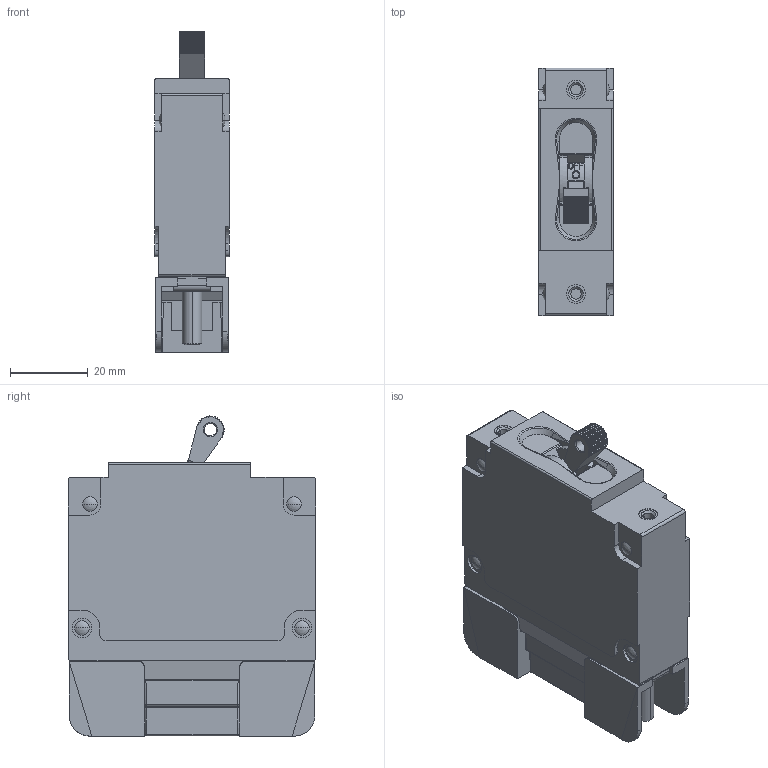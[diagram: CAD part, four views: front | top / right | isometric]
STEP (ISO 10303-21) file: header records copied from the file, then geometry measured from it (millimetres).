
FILE_DESCRIPTION((''),'2;1');
FILE_NAME('CS1','2016-03-14T',('patrickmoody'),(''),'CREO PARAMETRIC BY PTC INC, 2015480','CREO PARAMETRIC BY PTC INC, 2015480','');
FILE_SCHEMA(('AUTOMOTIVE_DESIGN { 1 0 10303 214 1 1 1 1 }'));
Length unit declared in the file: inch
Products named in the file (1): CS1
Bounding box: 19.05 x 63.5 x 82.12 mm (x, y, z)
Volume: 67887.2 mm3; surface area: 20650.4 mm2
Topology: 1 solids, 2 shells, 872 faces, 2462 edges, 1608 vertices
Faces by surface type: plane 572, cylinder 224, bspline 30, sphere 24, cone 18, torus 4
Entity records: 38067 total; most frequent: CARTESIAN_POINT 8127, ORIENTED_EDGE 4884, DIRECTION 4232, EDGE_CURVE 2442, VECTOR 1672, LINE 1672, VERTEX_POINT 1608, AXIS2_PLACEMENT_3D 1280
